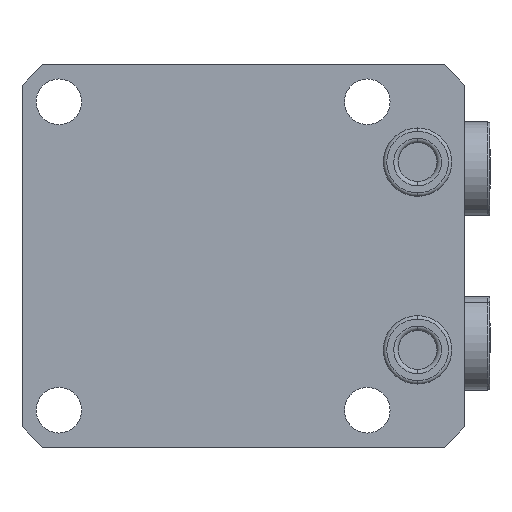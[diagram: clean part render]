
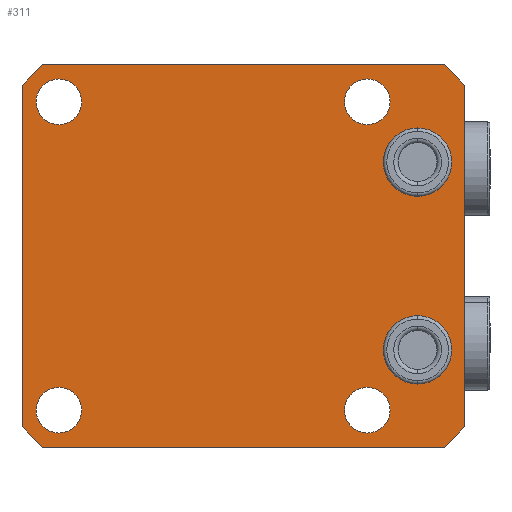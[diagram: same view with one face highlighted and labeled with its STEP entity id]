
A CAD part, front view. The second image highlights one B-rep face of the part: STEP entity #311.
In plain terms, the highlighted planar face has unit normal (0, -1, 0).
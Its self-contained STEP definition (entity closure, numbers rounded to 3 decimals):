
#177=PLANE('',#2254);
#228=FACE_BOUND('',#593,.T.);
#229=FACE_BOUND('',#594,.T.);
#230=FACE_BOUND('',#595,.T.);
#231=FACE_BOUND('',#596,.T.);
#232=FACE_BOUND('',#597,.T.);
#233=FACE_BOUND('',#598,.T.);
#234=FACE_BOUND('',#599,.T.);
#311=ADVANCED_FACE('',(#228,#229,#230,#231,#232,#233,#234),#177,.F.);
#593=EDGE_LOOP('',(#965,#966,#967,#968,#969,#970,#971,#972));
#594=EDGE_LOOP('',(#973,#974));
#595=EDGE_LOOP('',(#975,#976));
#596=EDGE_LOOP('',(#977,#978));
#597=EDGE_LOOP('',(#979,#980));
#598=EDGE_LOOP('',(#981,#982));
#599=EDGE_LOOP('',(#983,#984));
#746=CIRCLE('',#2209,5.1);
#762=CIRCLE('',#2230,5.1);
#763=CIRCLE('',#2232,3.4);
#765=CIRCLE('',#2235,3.4);
#767=CIRCLE('',#2238,3.4);
#769=CIRCLE('',#2241,3.4);
#773=CIRCLE('',#2248,3.4);
#774=CIRCLE('',#2249,3.4);
#775=CIRCLE('',#2250,3.4);
#776=CIRCLE('',#2251,3.4);
#777=CIRCLE('',#2252,5.1);
#778=CIRCLE('',#2253,5.1);
#965=ORIENTED_EDGE('',*,*,#1716,.F.);
#966=ORIENTED_EDGE('',*,*,#1717,.T.);
#967=ORIENTED_EDGE('',*,*,#1718,.F.);
#968=ORIENTED_EDGE('',*,*,#1719,.T.);
#969=ORIENTED_EDGE('',*,*,#1639,.F.);
#970=ORIENTED_EDGE('',*,*,#1720,.T.);
#971=ORIENTED_EDGE('',*,*,#1721,.F.);
#972=ORIENTED_EDGE('',*,*,#1722,.T.);
#973=ORIENTED_EDGE('',*,*,#1696,.F.);
#974=ORIENTED_EDGE('',*,*,#1723,.F.);
#975=ORIENTED_EDGE('',*,*,#1692,.F.);
#976=ORIENTED_EDGE('',*,*,#1724,.F.);
#977=ORIENTED_EDGE('',*,*,#1688,.F.);
#978=ORIENTED_EDGE('',*,*,#1725,.F.);
#979=ORIENTED_EDGE('',*,*,#1684,.F.);
#980=ORIENTED_EDGE('',*,*,#1726,.F.);
#981=ORIENTED_EDGE('',*,*,#1727,.F.);
#982=ORIENTED_EDGE('',*,*,#1682,.F.);
#983=ORIENTED_EDGE('',*,*,#1662,.T.);
#984=ORIENTED_EDGE('',*,*,#1728,.T.);
#1445=VERTEX_POINT('',#3124);
#1446=VERTEX_POINT('',#3126);
#1463=VERTEX_POINT('',#3171);
#1464=VERTEX_POINT('',#3173);
#1477=VERTEX_POINT('',#3210);
#1478=VERTEX_POINT('',#3212);
#1479=VERTEX_POINT('',#3216);
#1480=VERTEX_POINT('',#3217);
#1483=VERTEX_POINT('',#3225);
#1484=VERTEX_POINT('',#3226);
#1487=VERTEX_POINT('',#3234);
#1488=VERTEX_POINT('',#3235);
#1491=VERTEX_POINT('',#3243);
#1492=VERTEX_POINT('',#3244);
#1511=VERTEX_POINT('',#3323);
#1512=VERTEX_POINT('',#3324);
#1513=VERTEX_POINT('',#3326);
#1514=VERTEX_POINT('',#3328);
#1515=VERTEX_POINT('',#3331);
#1516=VERTEX_POINT('',#3333);
#1639=EDGE_CURVE('',#1445,#1446,#1913,.T.);
#1662=EDGE_CURVE('',#1464,#1463,#746,.T.);
#1682=EDGE_CURVE('',#1477,#1478,#762,.T.);
#1684=EDGE_CURVE('',#1479,#1480,#763,.T.);
#1688=EDGE_CURVE('',#1483,#1484,#765,.T.);
#1692=EDGE_CURVE('',#1487,#1488,#767,.T.);
#1696=EDGE_CURVE('',#1491,#1492,#769,.T.);
#1716=EDGE_CURVE('',#1511,#1512,#1937,.T.);
#1717=EDGE_CURVE('',#1511,#1513,#1938,.T.);
#1718=EDGE_CURVE('',#1514,#1513,#1939,.T.);
#1719=EDGE_CURVE('',#1514,#1446,#1940,.T.);
#1720=EDGE_CURVE('',#1445,#1515,#1941,.T.);
#1721=EDGE_CURVE('',#1516,#1515,#1942,.T.);
#1722=EDGE_CURVE('',#1516,#1512,#1943,.T.);
#1723=EDGE_CURVE('',#1492,#1491,#773,.T.);
#1724=EDGE_CURVE('',#1488,#1487,#774,.T.);
#1725=EDGE_CURVE('',#1484,#1483,#775,.T.);
#1726=EDGE_CURVE('',#1480,#1479,#776,.T.);
#1727=EDGE_CURVE('',#1478,#1477,#777,.T.);
#1728=EDGE_CURVE('',#1463,#1464,#778,.T.);
#1913=LINE('',#3125,#2038);
#1937=LINE('',#3322,#2062);
#1938=LINE('',#3325,#2063);
#1939=LINE('',#3327,#2064);
#1940=LINE('',#3329,#2065);
#1941=LINE('',#3330,#2066);
#1942=LINE('',#3332,#2067);
#1943=LINE('',#3334,#2068);
#2038=VECTOR('',#2483,1.);
#2062=VECTOR('',#2629,1.);
#2063=VECTOR('',#2630,1.);
#2064=VECTOR('',#2631,1.);
#2065=VECTOR('',#2632,1.);
#2066=VECTOR('',#2633,1.);
#2067=VECTOR('',#2634,1.);
#2068=VECTOR('',#2635,1.);
#2209=AXIS2_PLACEMENT_3D('',#3172,#2534,#2535);
#2230=AXIS2_PLACEMENT_3D('',#3211,#2580,#2581);
#2232=AXIS2_PLACEMENT_3D('',#3215,#2585,#2586);
#2235=AXIS2_PLACEMENT_3D('',#3224,#2593,#2594);
#2238=AXIS2_PLACEMENT_3D('',#3233,#2601,#2602);
#2241=AXIS2_PLACEMENT_3D('',#3242,#2609,#2610);
#2248=AXIS2_PLACEMENT_3D('',#3335,#2636,#2637);
#2249=AXIS2_PLACEMENT_3D('',#3336,#2638,#2639);
#2250=AXIS2_PLACEMENT_3D('',#3337,#2640,#2641);
#2251=AXIS2_PLACEMENT_3D('',#3338,#2642,#2643);
#2252=AXIS2_PLACEMENT_3D('',#3339,#2644,#2645);
#2253=AXIS2_PLACEMENT_3D('',#3340,#2646,#2647);
#2254=AXIS2_PLACEMENT_3D('',#3341,#2648,#2649);
#2483=DIRECTION('',(0.,0.,-1.));
#2534=DIRECTION('',(0.,1.,0.));
#2535=DIRECTION('',(0.,0.,1.));
#2580=DIRECTION('',(0.,-1.,0.));
#2581=DIRECTION('',(0.,0.,-1.));
#2585=DIRECTION('',(0.,-1.,0.));
#2586=DIRECTION('',(0.,0.,1.));
#2593=DIRECTION('',(0.,-1.,0.));
#2594=DIRECTION('',(0.,0.,1.));
#2601=DIRECTION('',(0.,-1.,0.));
#2602=DIRECTION('',(0.,0.,1.));
#2609=DIRECTION('',(0.,-1.,0.));
#2610=DIRECTION('',(0.,0.,1.));
#2629=DIRECTION('',(0.,0.,1.));
#2630=DIRECTION('',(0.707,0.,-0.707));
#2631=DIRECTION('',(-1.,0.,0.));
#2632=DIRECTION('',(0.707,0.,0.707));
#2633=DIRECTION('',(-0.707,0.,0.707));
#2634=DIRECTION('',(1.,0.,0.));
#2635=DIRECTION('',(-0.707,0.,-0.707));
#2636=DIRECTION('',(0.,-1.,0.));
#2637=DIRECTION('',(0.,0.,1.));
#2638=DIRECTION('',(0.,-1.,0.));
#2639=DIRECTION('',(0.,0.,1.));
#2640=DIRECTION('',(0.,-1.,0.));
#2641=DIRECTION('',(0.,0.,1.));
#2642=DIRECTION('',(0.,-1.,0.));
#2643=DIRECTION('',(0.,0.,1.));
#2644=DIRECTION('',(0.,-1.,0.));
#2645=DIRECTION('',(0.,0.,-1.));
#2646=DIRECTION('',(0.,1.,0.));
#2647=DIRECTION('',(0.,0.,1.));
#2648=DIRECTION('',(0.,1.,0.));
#2649=DIRECTION('',(0.,0.,1.));
#3124=CARTESIAN_POINT('',(37.5,0.,25.5));
#3125=CARTESIAN_POINT('',(37.5,0.,-28.5));
#3126=CARTESIAN_POINT('',(37.5,0.,-25.5));
#3171=CARTESIAN_POINT('',(30.5,0.,19.1));
#3172=CARTESIAN_POINT('',(30.5,0.,14.));
#3173=CARTESIAN_POINT('',(30.5,0.,8.9));
#3210=CARTESIAN_POINT('',(30.5,0.,-8.9));
#3211=CARTESIAN_POINT('',(30.5,0.,-14.));
#3212=CARTESIAN_POINT('',(30.5,0.,-19.1));
#3215=CARTESIAN_POINT('',(-23.,0.,23.));
#3216=CARTESIAN_POINT('',(-23.,0.,26.4));
#3217=CARTESIAN_POINT('',(-23.,0.,19.6));
#3224=CARTESIAN_POINT('',(23.,0.,23.));
#3225=CARTESIAN_POINT('',(23.,0.,26.4));
#3226=CARTESIAN_POINT('',(23.,0.,19.6));
#3233=CARTESIAN_POINT('',(-23.,0.,-23.));
#3234=CARTESIAN_POINT('',(-23.,0.,-19.6));
#3235=CARTESIAN_POINT('',(-23.,0.,-26.4));
#3242=CARTESIAN_POINT('',(23.,0.,-23.));
#3243=CARTESIAN_POINT('',(23.,0.,-19.6));
#3244=CARTESIAN_POINT('',(23.,0.,-26.4));
#3322=CARTESIAN_POINT('',(-28.5,0.,-28.5));
#3323=CARTESIAN_POINT('',(-28.5,0.,-25.5));
#3324=CARTESIAN_POINT('',(-28.5,0.,25.5));
#3325=CARTESIAN_POINT('',(-28.5,0.,-25.5));
#3326=CARTESIAN_POINT('',(-25.5,0.,-28.5));
#3327=CARTESIAN_POINT('',(-28.5,0.,-28.5));
#3328=CARTESIAN_POINT('',(34.5,0.,-28.5));
#3329=CARTESIAN_POINT('',(34.5,0.,-28.5));
#3330=CARTESIAN_POINT('',(37.5,0.,25.5));
#3331=CARTESIAN_POINT('',(34.5,0.,28.5));
#3332=CARTESIAN_POINT('',(-28.5,0.,28.5));
#3333=CARTESIAN_POINT('',(-25.5,0.,28.5));
#3334=CARTESIAN_POINT('',(-25.5,0.,28.5));
#3335=CARTESIAN_POINT('',(23.,0.,-23.));
#3336=CARTESIAN_POINT('',(-23.,0.,-23.));
#3337=CARTESIAN_POINT('',(23.,0.,23.));
#3338=CARTESIAN_POINT('',(-23.,0.,23.));
#3339=CARTESIAN_POINT('',(30.5,0.,-14.));
#3340=CARTESIAN_POINT('',(30.5,0.,14.));
#3341=CARTESIAN_POINT('',(-28.5,0.,28.5));
